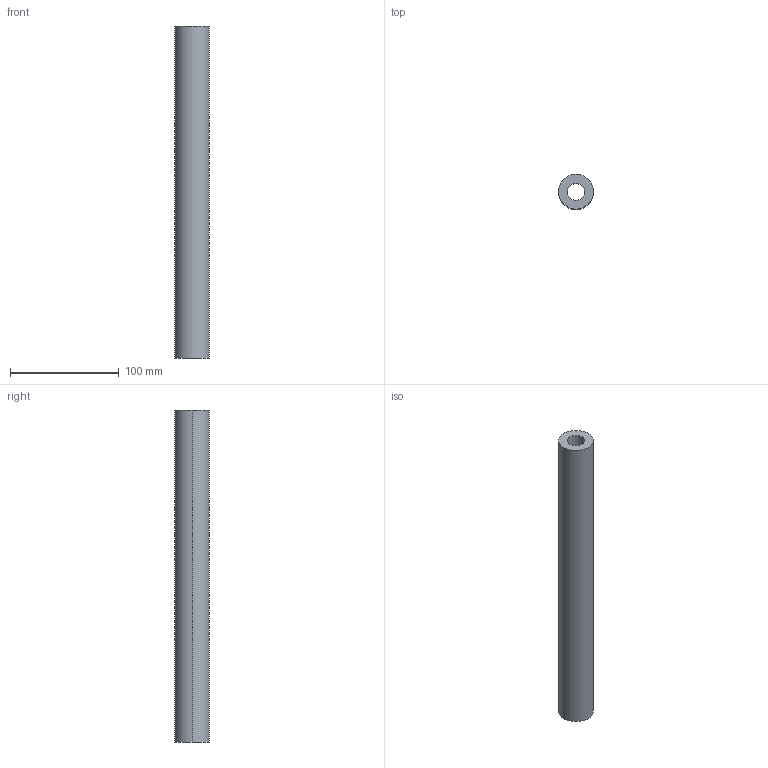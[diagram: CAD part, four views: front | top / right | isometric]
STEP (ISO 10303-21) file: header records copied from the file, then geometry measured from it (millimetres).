
FILE_DESCRIPTION (( 'STEP AP214' ), '1' );
FILE_NAME ('BRR-32X305.STEP', '2020-07-21T09:02:22', ( 'August' ), ( '' ), 'SwSTEP 2.0', 'SolidWorks 2018', '' );
FILE_SCHEMA (( 'AUTOMOTIVE_DESIGN' ));
Length unit declared in the file: millimetre
Products named in the file (1): BRR-32X305
Bounding box: 32 x 32 x 305 mm (x, y, z)
Volume: 183971.7 mm3; surface area: 47199.3 mm2
Topology: 1 solids, 1 shells, 6 faces, 12 edges, 8 vertices
Faces by surface type: cylinder 4, plane 2
Entity records: 202 total; most frequent: DIRECTION 34, CARTESIAN_POINT 27, ORIENTED_EDGE 24, AXIS2_PLACEMENT_3D 15, EDGE_CURVE 12, EDGE_LOOP 8, VERTEX_POINT 8, CIRCLE 8
